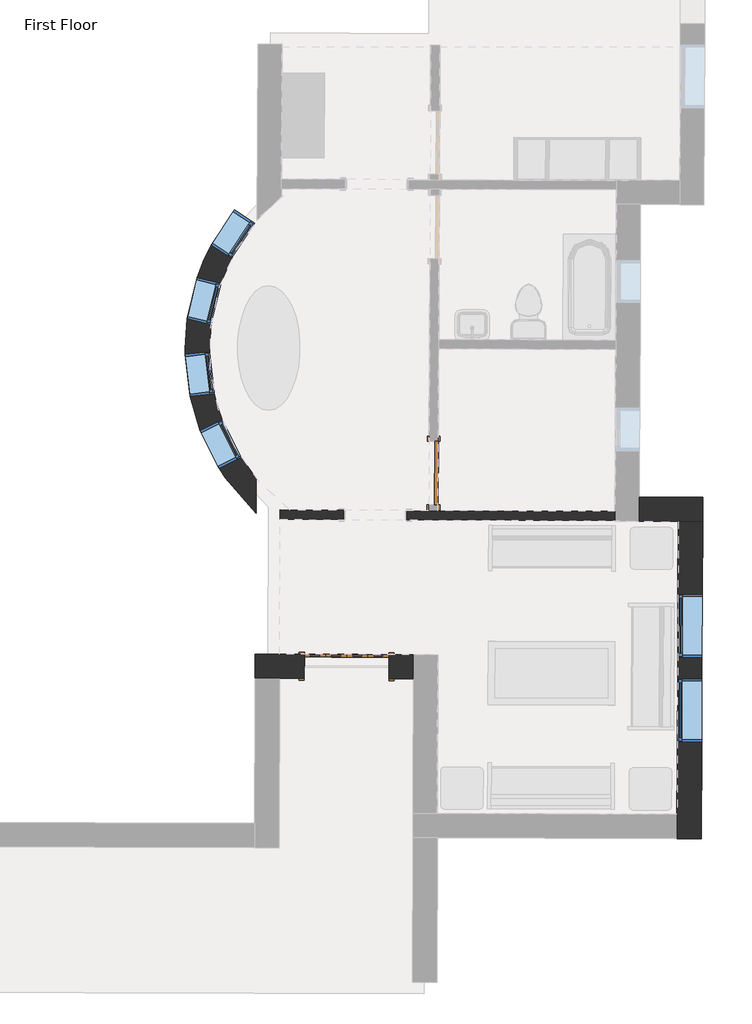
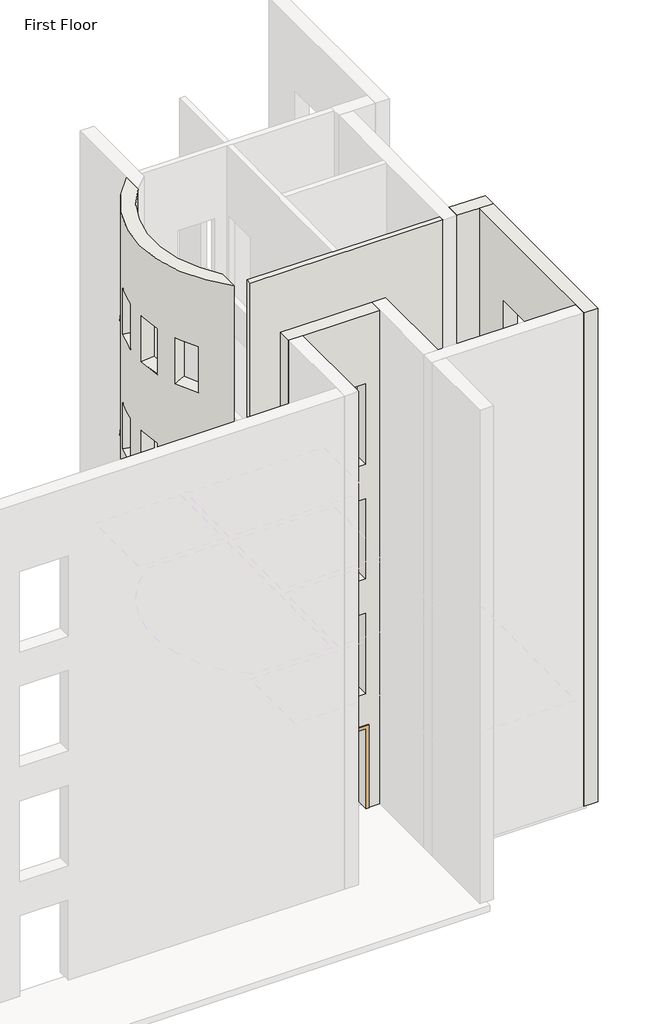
# One storey, part 8 of 22: 6 windows, 5 walls, 2 doors.
"""IFC4 building model written with IfcOpenShell, lengths in millimetres."""

from ifc_helpers import new_model, si_unit, frame, origin, place, context, project, spatial, polyline, circle_curve, faceted_brep, transform, mapped, element, save
from ifc_brep_helpers import plane_surface, cylinder_surface, revolved_surface, advanced_brep
from components import m_bifold_4_panel_1220_x_2134mm_46e1cad3, m_single_flush_0915_x_2134mm_08e0827a, m_fixed_0610_x_1220mm_2c28ef1d, m_fixed_0610_x_1220mm_1ea27827, m_fixed_0915_x_1220mm_bde29121

model = new_model("IFC4")

# Units and contexts
model_context = context("Model", 3, world=origin())
ifc_project = project(units=[si_unit("LENGTHUNIT", "METRE", prefix="MILLI")], contexts=[model_context])

# Site, building, storey
site = spatial("IfcSite", under=ifc_project)
building = spatial("IfcBuilding", under=site)
storey = spatial("IfcBuildingStorey", under=building, Name="First Floor", Elevation=0.0)

# Doors
placement = place(None, origin())
m_bifold_4_panel_1220_x_2134mm_shape = m_bifold_4_panel_1220_x_2134mm_46e1cad3(model_context)
element("IfcDoor", 1, ObjectType="M_Bifold-4 Panel : 1220 x 2134mm", at=placement, inside=storey, context=model_context, shape_type="MappedRepresentation", body=[
    mapped(m_bifold_4_panel_1220_x_2134mm_shape, transform((-9084.0085376, -31158.0124606, 0.0), x_axis=(0.9999905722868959, -0.0043422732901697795, 0.0), y_axis=(0.0043422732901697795, 0.9999905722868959, 0.0), z_axis=(0.0, 0.0, 1.0))),
])
m_single_flush_0915_x_2134mm_shape = m_single_flush_0915_x_2134mm_08e0827a(model_context)
element("IfcDoor", 2, ObjectType="M_Single-Flush : 0915 x 2134mm", at=placement, inside=storey, context=model_context, shape_type="MappedRepresentation", body=[
    mapped(m_single_flush_0915_x_2134mm_shape, transform((-7828.8792601, -28367.4362661, 0.0), x_axis=(-0.004342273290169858, -0.9999905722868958, 0.0), y_axis=(0.9999905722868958, -0.004342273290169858, 0.0), z_axis=(0.0, 0.0, 1.0))),
])

# Walls
element("IfcWall", 3, ObjectType="Exterior - Brick on Mtl. Stud", at=placement, inside=storey, context=model_context, shape_type="Brep", body=[
    faceted_brep([(-4861.2817233, -29065.3289652, 0.0), (-4296.8870443, -29067.7797442, 0.0), (-4131.8885999, -29068.4962193, 0.0), (-3946.890344, -29069.2995399, 0.0), (-3946.890344, -29069.2995399, 13107.0), (-4296.8870443, -29067.7797442, 13107.0), (-4861.2817233, -29065.3289652, 13107.0), (-4859.7619276, -28715.3322649, 0.0), (-4859.7619276, -28715.3322649, 13107.0), (-3945.3705483, -28719.3028396, 13107.0), (-3945.3705483, -28719.3028396, 0.0), (-4130.3688042, -28718.499519, 0.0), (-4860.5652482, -28900.3305208, 0.0), (-3946.1738689, -28904.3010955, 0.0), (-4131.1721248, -28903.4977749, 0.0)], [[[0, 1, 2, 3, 4, 5, 6]], [[7, 8, 9, 10, 11]], [[6, 5, 4, 9, 8]], [[0, 6, 8, 7, 12]], [[4, 3, 13, 10, 9]], [[12, 7, 11, 14]], [[3, 2, 14, 13]], [[14, 11, 10, 13]], [[2, 1, 0, 12, 14]]]),
])
element("IfcWall", 4, ObjectType="Exterior - Brick on Mtl. Stud", at=placement, inside=storey, context=model_context, shape_type="Brep", body=[
    faceted_brep([(-4296.8870443, -29067.7797442, 0.0), (-4315.2201221, -33289.7399404, 0.0), (-4315.9365972, -33454.7383849, 0.0), (-4316.7399178, -33639.7366407, 0.0), (-4316.7399178, -33639.7366407, 13107.0), (-4315.2201221, -33289.7399404, 13107.0), (-4296.8870443, -29067.7797442, 13107.0), (-4305.3931234, -31026.6612763, 915.0), (-4301.4199434, -30111.6699026, 915.0), (-4301.4199434, -30111.6699026, 2135.0), (-4305.3931234, -31026.6612763, 2135.0), (-4310.687223, -32245.849782, 915.0), (-4306.714043, -31330.8584084, 915.0), (-4306.714043, -31330.8584084, 2135.0), (-4310.687223, -32245.849782, 2135.0), (-4310.687223, -32245.849782, 10059.0), (-4306.714043, -31330.8584084, 10059.0), (-4306.714043, -31330.8584084, 11279.0), (-4310.687223, -32245.849782, 11279.0), (-4305.3931234, -31026.6612763, 10059.0), (-4301.4199434, -30111.6699026, 10059.0), (-4301.4199434, -30111.6699026, 11279.0), (-4305.3931234, -31026.6612763, 11279.0), (-4310.687223, -32245.849782, 3963.0), (-4306.714043, -31330.8584084, 3963.0), (-4306.714043, -31330.8584084, 5183.0), (-4310.687223, -32245.849782, 5183.0), (-4305.3931234, -31026.6612763, 3963.0), (-4301.4199434, -30111.6699026, 3963.0), (-4301.4199434, -30111.6699026, 5183.0), (-4305.3931234, -31026.6612763, 5183.0), (-4310.687223, -32245.849782, 7011.0), (-4306.714043, -31330.8584084, 7011.0), (-4306.714043, -31330.8584084, 8231.0), (-4310.687223, -32245.849782, 8231.0), (-4305.3931234, -31026.6612763, 7011.0), (-4301.4199434, -30111.6699026, 7011.0), (-4301.4199434, -30111.6699026, 8231.0), (-4305.3931234, -31026.6612763, 8231.0), (-3946.890344, -29069.2995399, 0.0), (-3946.890344, -29069.2995399, 13107.0), (-3966.7432175, -33641.2564364, 13107.0), (-3966.7432175, -33641.2564364, 0.0), (-3965.9398969, -33456.2581805, 0.0), (-3955.3964231, -31028.1810719, 915.0), (-3955.3964231, -31028.1810719, 2135.0), (-3951.4232431, -30113.1896983, 2135.0), (-3951.4232431, -30113.1896983, 915.0), (-3960.6905227, -32247.3695777, 915.0), (-3960.6905227, -32247.3695777, 2135.0), (-3956.7173427, -31332.378204, 2135.0), (-3956.7173427, -31332.378204, 915.0), (-3960.6905227, -32247.3695777, 10059.0), (-3960.6905227, -32247.3695777, 11279.0), (-3956.7173427, -31332.378204, 11279.0), (-3956.7173427, -31332.378204, 10059.0), (-3955.3964231, -31028.1810719, 10059.0), (-3955.3964231, -31028.1810719, 11279.0), (-3951.4232431, -30113.1896983, 11279.0), (-3951.4232431, -30113.1896983, 10059.0), (-3960.6905227, -32247.3695777, 3963.0), (-3960.6905227, -32247.3695777, 5183.0), (-3956.7173427, -31332.378204, 5183.0), (-3956.7173427, -31332.378204, 3963.0), (-3955.3964231, -31028.1810719, 3963.0), (-3955.3964231, -31028.1810719, 5183.0), (-3951.4232431, -30113.1896983, 5183.0), (-3951.4232431, -30113.1896983, 3963.0), (-3960.6905227, -32247.3695777, 7011.0), (-3960.6905227, -32247.3695777, 8231.0), (-3956.7173427, -31332.378204, 8231.0), (-3956.7173427, -31332.378204, 7011.0), (-3955.3964231, -31028.1810719, 7011.0), (-3955.3964231, -31028.1810719, 8231.0), (-3951.4232431, -30113.1896983, 8231.0), (-3951.4232431, -30113.1896983, 7011.0), (-4131.8885999, -29068.4962193, 0.0), (-4151.7414734, -33640.4531158, 0.0), (-4150.9381528, -33455.45486, 0.0)], [[[0, 1, 2, 3, 4, 5, 6], [7, 8, 9, 10], [11, 12, 13, 14], [15, 16, 17, 18], [19, 20, 21, 22], [23, 24, 25, 26], [27, 28, 29, 30], [31, 32, 33, 34], [35, 36, 37, 38]], [[39, 40, 41, 42, 43], [44, 45, 46, 47], [48, 49, 50, 51], [52, 53, 54, 55], [56, 57, 58, 59], [60, 61, 62, 63], [64, 65, 66, 67], [68, 69, 70, 71], [72, 73, 74, 75]], [[6, 5, 4, 41, 40]], [[0, 6, 40, 39, 76]], [[4, 3, 77, 42, 41]], [[45, 44, 7, 10]], [[46, 45, 10, 9]], [[47, 46, 9, 8]], [[44, 47, 8, 7]], [[49, 48, 11, 14]], [[50, 49, 14, 13]], [[51, 50, 13, 12]], [[48, 51, 12, 11]], [[76, 39, 43, 78]], [[3, 2, 78, 77]], [[78, 43, 42, 77]], [[2, 1, 0, 76, 78]], [[53, 52, 15, 18]], [[54, 53, 18, 17]], [[55, 54, 17, 16]], [[52, 55, 16, 15]], [[57, 56, 19, 22]], [[58, 57, 22, 21]], [[59, 58, 21, 20]], [[56, 59, 20, 19]], [[61, 60, 23, 26]], [[62, 61, 26, 25]], [[63, 62, 25, 24]], [[60, 63, 24, 23]], [[65, 64, 27, 30]], [[66, 65, 30, 29]], [[67, 66, 29, 28]], [[64, 67, 28, 27]], [[69, 68, 31, 34]], [[70, 69, 34, 33]], [[71, 70, 33, 32]], [[68, 71, 32, 31]], [[73, 72, 35, 38]], [[74, 73, 38, 37]], [[75, 74, 37, 36]], [[72, 75, 36, 35]]]),
])
element("IfcWall", 5, ObjectType="Exterior - Brick on Mtl. Stud", at=placement, inside=storey, context=model_context, shape_type="Brep", body=[
    faceted_brep([(-10401.236214, -30977.2909942, 13107.0), (-10051.2395137, -30978.8107899, 13107.0), (-8115.2577658, -30987.217431, 13107.0), (-8115.2577658, -30987.217431, 0.0), (-8473.2543907, -30985.6628971, 0.0), (-8473.2543907, -30985.6628971, 2134.0), (-9693.2428889, -30980.3653237, 2134.0), (-9693.2428889, -30980.3653237, 0.0), (-10051.2395137, -30978.8107899, 0.0), (-10216.2379582, -30978.0943148, 0.0), (-10401.236214, -30977.2909942, 0.0), (-8473.2543907, -30985.6628971, 9144.0), (-8473.2543907, -30985.6628971, 11278.0), (-9693.2428889, -30980.3653237, 11278.0), (-9693.2428889, -30980.3653237, 9144.0), (-8473.2543907, -30985.6628971, 3048.0), (-8473.2543907, -30985.6628971, 5182.0), (-9693.2428889, -30980.3653237, 5182.0), (-9693.2428889, -30980.3653237, 3048.0), (-8473.2543907, -30985.6628971, 6096.0), (-8473.2543907, -30985.6628971, 8230.0), (-9693.2428889, -30980.3653237, 8230.0), (-9693.2428889, -30980.3653237, 6096.0), (-8116.7775614, -31337.2141313, 13107.0), (-10052.7613374, -31328.8074814, 13107.0), (-10402.7560097, -31327.2876945, 13107.0), (-10402.7560097, -31327.2876945, 0.0), (-10217.7577538, -31328.0910151, 0.0), (-10052.7613374, -31328.8074814, 0.0), (-9694.7626845, -31330.362024, 0.0), (-9694.7626845, -31330.362024, 2134.0), (-8474.7741863, -31335.6595974, 2134.0), (-8474.7741863, -31335.6595974, 0.0), (-8116.7775614, -31337.2141313, 0.0), (-8474.7741863, -31335.6595974, 9144.0), (-9694.7626845, -31330.362024, 9144.0), (-9694.7626845, -31330.362024, 11278.0), (-8474.7741863, -31335.6595974, 11278.0), (-8474.7741863, -31335.6595974, 3048.0), (-9694.7626845, -31330.362024, 3048.0), (-9694.7626845, -31330.362024, 5182.0), (-8474.7741863, -31335.6595974, 5182.0), (-8474.7741863, -31335.6595974, 6096.0), (-9694.7626845, -31330.362024, 6096.0), (-9694.7626845, -31330.362024, 8230.0), (-8474.7741863, -31335.6595974, 8230.0), (-8473.9708658, -31150.6613415, 0.0), (-9693.959364, -31145.3637681, 0.0), (-10216.9544333, -31143.0927592, 0.0), (-8115.9742409, -31152.2158754, 0.0), (-10401.9526891, -31142.2894386, 0.0)], [[[0, 1, 2, 3, 4, 5, 6, 7, 8, 9, 10], [11, 12, 13, 14], [15, 16, 17, 18], [19, 20, 21, 22]], [[23, 24, 25, 26, 27, 28, 29, 30, 31, 32, 33], [34, 35, 36, 37], [38, 39, 40, 41], [42, 43, 44, 45]], [[2, 1, 0, 25, 24, 23]], [[31, 5, 4, 46, 32]], [[5, 31, 30, 6]], [[6, 30, 29, 47, 7]], [[27, 48, 47, 29, 28]], [[49, 33, 32, 46]], [[10, 9, 48, 50]], [[27, 26, 50, 48]], [[48, 9, 8, 7, 47]], [[3, 49, 46, 4]], [[12, 11, 34, 37]], [[13, 12, 37, 36]], [[14, 13, 36, 35]], [[11, 14, 35, 34]], [[16, 15, 38, 41]], [[17, 16, 41, 40]], [[18, 17, 40, 39]], [[15, 18, 39, 38]], [[20, 19, 42, 45]], [[21, 20, 45, 44]], [[22, 21, 44, 43]], [[19, 22, 43, 42]], [[3, 2, 23, 33, 49]], [[0, 10, 50, 26, 25]]]),
])
element("IfcWall", 6, ObjectType="Exterior - Brick on Mtl. Stud", at=placement, inside=storey, context=model_context, shape_type="AdvancedBrep", body=[
    advanced_brep(
    [(-10390.2125961, -28438.6405522, 13107.0), (-10374.0738807, -24722.0243435, 13107.0), (-10371.8795021, -24216.6766394, 13107.0), (-10392.4069746, -28943.9882564, 13107.0), (-10374.0738807, -24722.0243435, 0.0), (-10390.2125961, -28438.6405522, 0.0), (-10392.4069746, -28943.9882564, 0.0), (-10371.8795021, -24216.6766394, 0.0), (-10408.8328393, -24763.4304099, 2135.0), (-10408.8328393, -24763.4304099, 915.0), (-10744.4408992, -25272.8096695, 915.0), (-10744.4408992, -25272.8096695, 2135.0), (-10899.7584089, -25632.0856121, 2135.0), (-10899.7584089, -25632.0856121, 915.0), (-11040.9088589, -26225.5302603, 915.0), (-11040.9088589, -26225.5302603, 2135.0), (-10993.64798, -27222.1927833, 915.0), (-10993.64798, -27222.1927833, 2135.0), (-11063.9799673, -26616.2609294, 2135.0), (-11063.9799673, -26616.2609294, 915.0), (-10608.3586219, -28142.5850289, 915.0), (-10608.3586219, -28142.5850289, 2135.0), (-10881.6899709, -27597.2502935, 2135.0), (-10881.6899709, -27597.2502935, 915.0), (-10993.64798, -27222.1927833, 10059.0), (-10993.64798, -27222.1927833, 11279.0), (-11063.9799673, -26616.2609294, 11279.0), (-11063.9799673, -26616.2609294, 10059.0), (-10608.3586219, -28142.5850289, 10059.0), (-10608.3586219, -28142.5850289, 11279.0), (-10881.6899709, -27597.2502935, 11279.0), (-10881.6899709, -27597.2502935, 10059.0), (-10899.7584089, -25632.0856121, 10059.0), (-11040.9088589, -26225.5302603, 10059.0), (-11040.9088589, -26225.5302603, 11279.0), (-10899.7584089, -25632.0856121, 11279.0), (-10408.8328393, -24763.4304099, 10059.0), (-10744.4408992, -25272.8096695, 10059.0), (-10744.4408992, -25272.8096695, 11279.0), (-10408.8328393, -24763.4304099, 11279.0), (-10993.64798, -27222.1927833, 3963.0), (-10993.64798, -27222.1927833, 5183.0), (-11063.9799673, -26616.2609294, 5183.0), (-11063.9799673, -26616.2609294, 3963.0), (-10608.3586219, -28142.5850289, 3963.0), (-10608.3586219, -28142.5850289, 5183.0), (-10881.6899709, -27597.2502935, 5183.0), (-10881.6899709, -27597.2502935, 3963.0), (-10899.7584089, -25632.0856121, 3963.0), (-11040.9088589, -26225.5302603, 3963.0), (-11040.9088589, -26225.5302603, 5183.0), (-10899.7584089, -25632.0856121, 5183.0), (-10408.8328393, -24763.4304099, 3963.0), (-10744.4408992, -25272.8096695, 3963.0), (-10744.4408992, -25272.8096695, 5183.0), (-10408.8328393, -24763.4304099, 5183.0), (-10993.64798, -27222.1927833, 7011.0), (-10993.64798, -27222.1927833, 8231.0), (-11063.9799673, -26616.2609294, 8231.0), (-11063.9799673, -26616.2609294, 7011.0), (-10608.3586219, -28142.5850289, 7011.0), (-10608.3586219, -28142.5850289, 8231.0), (-10881.6899709, -27597.2502935, 8231.0), (-10881.6899709, -27597.2502935, 7011.0), (-10899.7584089, -25632.0856121, 7011.0), (-11040.9088589, -26225.5302603, 7011.0), (-11040.9088589, -26225.5302603, 8231.0), (-10899.7584089, -25632.0856121, 8231.0), (-10408.8328393, -24763.4304099, 7011.0), (-10744.4408992, -25272.8096695, 7011.0), (-10744.4408992, -25272.8096695, 8231.0), (-10408.8328393, -24763.4304099, 8231.0), (-10702.5789245, -24569.8937633, 915.0), (-10702.5789245, -24569.8937633, 2135.0), (-11038.1869844, -25079.2730229, 2135.0), (-11038.1869844, -25079.2730229, 915.0), (-11241.9828692, -25550.6877316, 915.0), (-11241.9828692, -25550.6877316, 2135.0), (-11383.1333192, -26144.1323798, 2135.0), (-11383.1333192, -26144.1323798, 915.0), (-11343.0734947, -27262.7514546, 915.0), (-11413.405482, -26656.8196007, 915.0), (-11413.405482, -26656.8196007, 2135.0), (-11343.0734947, -27262.7514546, 2135.0), (-10922.839317, -28300.2082777, 915.0), (-11196.170666, -27754.8735423, 915.0), (-11196.170666, -27754.8735423, 2135.0), (-10922.839317, -28300.2082777, 2135.0), (-11343.0734947, -27262.7514546, 10059.0), (-11413.405482, -26656.8196007, 10059.0), (-11413.405482, -26656.8196007, 11279.0), (-11343.0734947, -27262.7514546, 11279.0), (-10922.839317, -28300.2082777, 10059.0), (-11196.170666, -27754.8735423, 10059.0), (-11196.170666, -27754.8735423, 11279.0), (-10922.839317, -28300.2082777, 11279.0), (-11241.9828692, -25550.6877316, 10059.0), (-11241.9828692, -25550.6877316, 11279.0), (-11383.1333192, -26144.1323798, 11279.0), (-11383.1333192, -26144.1323798, 10059.0), (-10702.5789245, -24569.8937633, 10059.0), (-10702.5789245, -24569.8937633, 11279.0), (-11038.1869844, -25079.2730229, 11279.0), (-11038.1869844, -25079.2730229, 10059.0), (-11343.0734947, -27262.7514546, 3963.0), (-11413.405482, -26656.8196007, 3963.0), (-11413.405482, -26656.8196007, 5183.0), (-11343.0734947, -27262.7514546, 5183.0), (-10922.839317, -28300.2082777, 3963.0), (-11196.170666, -27754.8735423, 3963.0), (-11196.170666, -27754.8735423, 5183.0), (-10922.839317, -28300.2082777, 5183.0), (-11241.9828692, -25550.6877316, 3963.0), (-11241.9828692, -25550.6877316, 5183.0), (-11383.1333192, -26144.1323798, 5183.0), (-11383.1333192, -26144.1323798, 3963.0), (-10702.5789245, -24569.8937633, 3963.0), (-10702.5789245, -24569.8937633, 5183.0), (-11038.1869844, -25079.2730229, 5183.0), (-11038.1869844, -25079.2730229, 3963.0), (-11343.0734947, -27262.7514546, 7011.0), (-11413.405482, -26656.8196007, 7011.0), (-11413.405482, -26656.8196007, 8231.0), (-11343.0734947, -27262.7514546, 8231.0), (-10922.839317, -28300.2082777, 7011.0), (-11196.170666, -27754.8735423, 7011.0), (-11196.170666, -27754.8735423, 8231.0), (-10922.839317, -28300.2082777, 8231.0), (-11241.9828692, -25550.6877316, 7011.0), (-11241.9828692, -25550.6877316, 8231.0), (-11383.1333192, -26144.1323798, 8231.0), (-11383.1333192, -26144.1323798, 7011.0), (-10702.5789245, -24569.8937633, 7011.0), (-10702.5789245, -24569.8937633, 8231.0), (-11038.1869844, -25079.2730229, 8231.0), (-11038.1869844, -25079.2730229, 7011.0)],
    [
        (0, 1, circle_curve(frame((-8191.1013961, -26589.84664, 13107.0), z_axis=(0.0, 0.0, -1.0), x_axis=(-0.0043422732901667, -0.9999905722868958, 0.0)), 2873.0)),
        (1, 2),
        (2, 3, circle_curve(frame((-8191.1013961, -26589.84664, 13107.0), z_axis=(0.0, 0.0, 1.0), x_axis=(-0.0043422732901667, -0.9999905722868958, 0.0)), 3223.0)),
        (3, 0),
        (4, 5, circle_curve(frame((-8191.1013961, -26589.84664, 0.0), z_axis=(0.0, 0.0, 1.0), x_axis=(-0.0043422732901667, -0.9999905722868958, 0.0)), 2873.0)),
        (5, 6),
        (6, 7, circle_curve(frame((-8191.1013961, -26589.84664, 0.0), z_axis=(0.0, 0.0, -1.0), x_axis=(-0.0043422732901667, -0.9999905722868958, 0.0)), 3223.0)),
        (7, 4),
        (0, 5),
        (4, 1),
        (8, 9),
        (9, 10, circle_curve(frame((-8191.1013961, -26589.84664, 915.0), z_axis=(0.0, 0.0, 1.0), x_axis=(-0.0043422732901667, -0.9999905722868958, 0.0)), 2873.0)),
        (10, 11),
        (11, 8, circle_curve(frame((-8191.1013961, -26589.84664, 2135.0), z_axis=(0.0, 0.0, -1.0), x_axis=(-0.0043422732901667, -0.9999905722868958, 0.0)), 2873.0)),
        (12, 13),
        (13, 14, circle_curve(frame((-8191.1013961, -26589.84664, 915.0), z_axis=(0.0, 0.0, 1.0), x_axis=(-0.0043422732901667, -0.9999905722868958, 0.0)), 2873.0)),
        (14, 15),
        (15, 12, circle_curve(frame((-8191.1013961, -26589.84664, 2135.0), z_axis=(0.0, 0.0, -1.0), x_axis=(-0.0043422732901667, -0.9999905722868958, 0.0)), 2873.0)),
        (16, 17),
        (17, 18, circle_curve(frame((-8191.1013961, -26589.84664, 2135.0), z_axis=(0.0, 0.0, -1.0), x_axis=(-0.0043422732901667, -0.9999905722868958, 0.0)), 2873.0)),
        (18, 19),
        (19, 16, circle_curve(frame((-8191.1013961, -26589.84664, 915.0), z_axis=(0.0, 0.0, 1.0), x_axis=(-0.0043422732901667, -0.9999905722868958, 0.0)), 2873.0)),
        (20, 21),
        (21, 22, circle_curve(frame((-8191.1013961, -26589.84664, 2135.0), z_axis=(0.0, 0.0, -1.0), x_axis=(-0.0043422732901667, -0.9999905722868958, 0.0)), 2873.0)),
        (22, 23),
        (23, 20, circle_curve(frame((-8191.1013961, -26589.84664, 915.0), z_axis=(0.0, 0.0, 1.0), x_axis=(-0.0043422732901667, -0.9999905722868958, 0.0)), 2873.0)),
        (24, 25),
        (25, 26, circle_curve(frame((-8191.1013961, -26589.84664, 11279.0), z_axis=(0.0, 0.0, -1.0), x_axis=(-0.0043422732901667, -0.9999905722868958, 0.0)), 2873.0)),
        (26, 27),
        (27, 24, circle_curve(frame((-8191.1013961, -26589.84664, 10059.0), z_axis=(0.0, 0.0, 1.0), x_axis=(-0.0043422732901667, -0.9999905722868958, 0.0)), 2873.0)),
        (28, 29),
        (29, 30, circle_curve(frame((-8191.1013961, -26589.84664, 11279.0), z_axis=(0.0, 0.0, -1.0), x_axis=(-0.0043422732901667, -0.9999905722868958, 0.0)), 2873.0)),
        (30, 31),
        (31, 28, circle_curve(frame((-8191.1013961, -26589.84664, 10059.0), z_axis=(0.0, 0.0, 1.0), x_axis=(-0.0043422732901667, -0.9999905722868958, 0.0)), 2873.0)),
        (32, 33, circle_curve(frame((-8191.1013961, -26589.84664, 10059.0), z_axis=(0.0, 0.0, 1.0), x_axis=(-0.0043422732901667, -0.9999905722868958, 0.0)), 2873.0)),
        (33, 34),
        (34, 35, circle_curve(frame((-8191.1013961, -26589.84664, 11279.0), z_axis=(0.0, 0.0, -1.0), x_axis=(-0.0043422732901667, -0.9999905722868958, 0.0)), 2873.0)),
        (35, 32),
        (36, 37, circle_curve(frame((-8191.1013961, -26589.84664, 10059.0), z_axis=(0.0, 0.0, 1.0), x_axis=(-0.0043422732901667, -0.9999905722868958, 0.0)), 2873.0)),
        (37, 38),
        (38, 39, circle_curve(frame((-8191.1013961, -26589.84664, 11279.0), z_axis=(0.0, 0.0, -1.0), x_axis=(-0.0043422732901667, -0.9999905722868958, 0.0)), 2873.0)),
        (39, 36),
        (40, 41),
        (41, 42, circle_curve(frame((-8191.1013961, -26589.84664, 5183.0), z_axis=(0.0, 0.0, -1.0), x_axis=(-0.0043422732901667, -0.9999905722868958, 0.0)), 2873.0)),
        (42, 43),
        (43, 40, circle_curve(frame((-8191.1013961, -26589.84664, 3963.0), z_axis=(0.0, 0.0, 1.0), x_axis=(-0.0043422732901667, -0.9999905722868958, 0.0)), 2873.0)),
        (44, 45),
        (45, 46, circle_curve(frame((-8191.1013961, -26589.84664, 5183.0), z_axis=(0.0, 0.0, -1.0), x_axis=(-0.0043422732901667, -0.9999905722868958, 0.0)), 2873.0)),
        (46, 47),
        (47, 44, circle_curve(frame((-8191.1013961, -26589.84664, 3963.0), z_axis=(0.0, 0.0, 1.0), x_axis=(-0.0043422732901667, -0.9999905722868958, 0.0)), 2873.0)),
        (48, 49, circle_curve(frame((-8191.1013961, -26589.84664, 3963.0), z_axis=(0.0, 0.0, 1.0), x_axis=(-0.0043422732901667, -0.9999905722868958, 0.0)), 2873.0)),
        (49, 50),
        (50, 51, circle_curve(frame((-8191.1013961, -26589.84664, 5183.0), z_axis=(0.0, 0.0, -1.0), x_axis=(-0.0043422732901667, -0.9999905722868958, 0.0)), 2873.0)),
        (51, 48),
        (52, 53, circle_curve(frame((-8191.1013961, -26589.84664, 3963.0), z_axis=(0.0, 0.0, 1.0), x_axis=(-0.0043422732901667, -0.9999905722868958, 0.0)), 2873.0)),
        (53, 54),
        (54, 55, circle_curve(frame((-8191.1013961, -26589.84664, 5183.0), z_axis=(0.0, 0.0, -1.0), x_axis=(-0.0043422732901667, -0.9999905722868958, 0.0)), 2873.0)),
        (55, 52),
        (56, 57),
        (57, 58, circle_curve(frame((-8191.1013961, -26589.84664, 8231.0), z_axis=(0.0, 0.0, -1.0), x_axis=(-0.0043422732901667, -0.9999905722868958, 0.0)), 2873.0)),
        (58, 59),
        (59, 56, circle_curve(frame((-8191.1013961, -26589.84664, 7011.0), z_axis=(0.0, 0.0, 1.0), x_axis=(-0.0043422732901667, -0.9999905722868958, 0.0)), 2873.0)),
        (60, 61),
        (61, 62, circle_curve(frame((-8191.1013961, -26589.84664, 8231.0), z_axis=(0.0, 0.0, -1.0), x_axis=(-0.0043422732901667, -0.9999905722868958, 0.0)), 2873.0)),
        (62, 63),
        (63, 60, circle_curve(frame((-8191.1013961, -26589.84664, 7011.0), z_axis=(0.0, 0.0, 1.0), x_axis=(-0.0043422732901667, -0.9999905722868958, 0.0)), 2873.0)),
        (64, 65, circle_curve(frame((-8191.1013961, -26589.84664, 7011.0), z_axis=(0.0, 0.0, 1.0), x_axis=(-0.0043422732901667, -0.9999905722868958, 0.0)), 2873.0)),
        (65, 66),
        (66, 67, circle_curve(frame((-8191.1013961, -26589.84664, 8231.0), z_axis=(0.0, 0.0, -1.0), x_axis=(-0.0043422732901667, -0.9999905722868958, 0.0)), 2873.0)),
        (67, 64),
        (68, 69, circle_curve(frame((-8191.1013961, -26589.84664, 7011.0), z_axis=(0.0, 0.0, 1.0), x_axis=(-0.0043422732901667, -0.9999905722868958, 0.0)), 2873.0)),
        (69, 70),
        (70, 71, circle_curve(frame((-8191.1013961, -26589.84664, 8231.0), z_axis=(0.0, 0.0, -1.0), x_axis=(-0.0043422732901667, -0.9999905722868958, 0.0)), 2873.0)),
        (71, 68),
        (2, 7),
        (6, 3),
        (72, 73),
        (73, 74, circle_curve(frame((-8191.1013961, -26589.84664, 2135.0), z_axis=(0.0, 0.0, 1.0), x_axis=(-0.0043422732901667, -0.9999905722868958, 0.0)), 3223.0)),
        (74, 75),
        (75, 72, circle_curve(frame((-8191.1013961, -26589.84664, 915.0), z_axis=(0.0, 0.0, -1.0), x_axis=(-0.0043422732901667, -0.9999905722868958, 0.0)), 3223.0)),
        (76, 77),
        (77, 78, circle_curve(frame((-8191.1013961, -26589.84664, 2135.0), z_axis=(0.0, 0.0, 1.0), x_axis=(-0.0043422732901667, -0.9999905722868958, 0.0)), 3223.0)),
        (78, 79),
        (79, 76, circle_curve(frame((-8191.1013961, -26589.84664, 915.0), z_axis=(0.0, 0.0, -1.0), x_axis=(-0.0043422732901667, -0.9999905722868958, 0.0)), 3223.0)),
        (80, 81, circle_curve(frame((-8191.1013961, -26589.84664, 915.0), z_axis=(0.0, 0.0, -1.0), x_axis=(-0.0043422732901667, -0.9999905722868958, 0.0)), 3223.0)),
        (81, 82),
        (82, 83, circle_curve(frame((-8191.1013961, -26589.84664, 2135.0), z_axis=(0.0, 0.0, 1.0), x_axis=(-0.0043422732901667, -0.9999905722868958, 0.0)), 3223.0)),
        (83, 80),
        (84, 85, circle_curve(frame((-8191.1013961, -26589.84664, 915.0), z_axis=(0.0, 0.0, -1.0), x_axis=(-0.0043422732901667, -0.9999905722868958, 0.0)), 3223.0)),
        (85, 86),
        (86, 87, circle_curve(frame((-8191.1013961, -26589.84664, 2135.0), z_axis=(0.0, 0.0, 1.0), x_axis=(-0.0043422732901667, -0.9999905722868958, 0.0)), 3223.0)),
        (87, 84),
        (88, 89, circle_curve(frame((-8191.1013961, -26589.84664, 10059.0), z_axis=(0.0, 0.0, -1.0), x_axis=(-0.0043422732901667, -0.9999905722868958, 0.0)), 3223.0)),
        (89, 90),
        (90, 91, circle_curve(frame((-8191.1013961, -26589.84664, 11279.0), z_axis=(0.0, 0.0, 1.0), x_axis=(-0.0043422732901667, -0.9999905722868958, 0.0)), 3223.0)),
        (91, 88),
        (92, 93, circle_curve(frame((-8191.1013961, -26589.84664, 10059.0), z_axis=(0.0, 0.0, -1.0), x_axis=(-0.0043422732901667, -0.9999905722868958, 0.0)), 3223.0)),
        (93, 94),
        (94, 95, circle_curve(frame((-8191.1013961, -26589.84664, 11279.0), z_axis=(0.0, 0.0, 1.0), x_axis=(-0.0043422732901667, -0.9999905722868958, 0.0)), 3223.0)),
        (95, 92),
        (96, 97),
        (97, 98, circle_curve(frame((-8191.1013961, -26589.84664, 11279.0), z_axis=(0.0, 0.0, 1.0), x_axis=(-0.0043422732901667, -0.9999905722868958, 0.0)), 3223.0)),
        (98, 99),
        (99, 96, circle_curve(frame((-8191.1013961, -26589.84664, 10059.0), z_axis=(0.0, 0.0, -1.0), x_axis=(-0.0043422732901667, -0.9999905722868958, 0.0)), 3223.0)),
        (100, 101),
        (101, 102, circle_curve(frame((-8191.1013961, -26589.84664, 11279.0), z_axis=(0.0, 0.0, 1.0), x_axis=(-0.0043422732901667, -0.9999905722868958, 0.0)), 3223.0)),
        (102, 103),
        (103, 100, circle_curve(frame((-8191.1013961, -26589.84664, 10059.0), z_axis=(0.0, 0.0, -1.0), x_axis=(-0.0043422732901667, -0.9999905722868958, 0.0)), 3223.0)),
        (104, 105, circle_curve(frame((-8191.1013961, -26589.84664, 3963.0), z_axis=(0.0, 0.0, -1.0), x_axis=(-0.0043422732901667, -0.9999905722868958, 0.0)), 3223.0)),
        (105, 106),
        (106, 107, circle_curve(frame((-8191.1013961, -26589.84664, 5183.0), z_axis=(0.0, 0.0, 1.0), x_axis=(-0.0043422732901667, -0.9999905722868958, 0.0)), 3223.0)),
        (107, 104),
        (108, 109, circle_curve(frame((-8191.1013961, -26589.84664, 3963.0), z_axis=(0.0, 0.0, -1.0), x_axis=(-0.0043422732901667, -0.9999905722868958, 0.0)), 3223.0)),
        (109, 110),
        (110, 111, circle_curve(frame((-8191.1013961, -26589.84664, 5183.0), z_axis=(0.0, 0.0, 1.0), x_axis=(-0.0043422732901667, -0.9999905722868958, 0.0)), 3223.0)),
        (111, 108),
        (112, 113),
        (113, 114, circle_curve(frame((-8191.1013961, -26589.84664, 5183.0), z_axis=(0.0, 0.0, 1.0), x_axis=(-0.0043422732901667, -0.9999905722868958, 0.0)), 3223.0)),
        (114, 115),
        (115, 112, circle_curve(frame((-8191.1013961, -26589.84664, 3963.0), z_axis=(0.0, 0.0, -1.0), x_axis=(-0.0043422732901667, -0.9999905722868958, 0.0)), 3223.0)),
        (116, 117),
        (117, 118, circle_curve(frame((-8191.1013961, -26589.84664, 5183.0), z_axis=(0.0, 0.0, 1.0), x_axis=(-0.0043422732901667, -0.9999905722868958, 0.0)), 3223.0)),
        (118, 119),
        (119, 116, circle_curve(frame((-8191.1013961, -26589.84664, 3963.0), z_axis=(0.0, 0.0, -1.0), x_axis=(-0.0043422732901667, -0.9999905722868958, 0.0)), 3223.0)),
        (120, 121, circle_curve(frame((-8191.1013961, -26589.84664, 7011.0), z_axis=(0.0, 0.0, -1.0), x_axis=(-0.0043422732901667, -0.9999905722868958, 0.0)), 3223.0)),
        (121, 122),
        (122, 123, circle_curve(frame((-8191.1013961, -26589.84664, 8231.0), z_axis=(0.0, 0.0, 1.0), x_axis=(-0.0043422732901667, -0.9999905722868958, 0.0)), 3223.0)),
        (123, 120),
        (124, 125, circle_curve(frame((-8191.1013961, -26589.84664, 7011.0), z_axis=(0.0, 0.0, -1.0), x_axis=(-0.0043422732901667, -0.9999905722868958, 0.0)), 3223.0)),
        (125, 126),
        (126, 127, circle_curve(frame((-8191.1013961, -26589.84664, 8231.0), z_axis=(0.0, 0.0, 1.0), x_axis=(-0.0043422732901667, -0.9999905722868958, 0.0)), 3223.0)),
        (127, 124),
        (128, 129),
        (129, 130, circle_curve(frame((-8191.1013961, -26589.84664, 8231.0), z_axis=(0.0, 0.0, 1.0), x_axis=(-0.0043422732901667, -0.9999905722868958, 0.0)), 3223.0)),
        (130, 131),
        (131, 128, circle_curve(frame((-8191.1013961, -26589.84664, 7011.0), z_axis=(0.0, 0.0, -1.0), x_axis=(-0.0043422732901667, -0.9999905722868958, 0.0)), 3223.0)),
        (132, 133),
        (133, 134, circle_curve(frame((-8191.1013961, -26589.84664, 8231.0), z_axis=(0.0, 0.0, 1.0), x_axis=(-0.0043422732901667, -0.9999905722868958, 0.0)), 3223.0)),
        (134, 135),
        (135, 132, circle_curve(frame((-8191.1013961, -26589.84664, 7011.0), z_axis=(0.0, 0.0, -1.0), x_axis=(-0.0043422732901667, -0.9999905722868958, 0.0)), 3223.0)),
        (72, 9),
        (8, 73),
        (11, 74),
        (10, 75),
        (76, 13),
        (12, 77),
        (15, 78),
        (14, 79),
        (16, 80),
        (83, 17),
        (82, 18),
        (81, 19),
        (20, 84),
        (87, 21),
        (86, 22),
        (85, 23),
        (24, 88),
        (91, 25),
        (90, 26),
        (89, 27),
        (28, 92),
        (95, 29),
        (94, 30),
        (93, 31),
        (96, 32),
        (35, 97),
        (34, 98),
        (33, 99),
        (100, 36),
        (39, 101),
        (38, 102),
        (37, 103),
        (40, 104),
        (107, 41),
        (106, 42),
        (105, 43),
        (44, 108),
        (111, 45),
        (110, 46),
        (109, 47),
        (112, 48),
        (51, 113),
        (50, 114),
        (49, 115),
        (116, 52),
        (55, 117),
        (54, 118),
        (53, 119),
        (56, 120),
        (123, 57),
        (122, 58),
        (121, 59),
        (60, 124),
        (127, 61),
        (126, 62),
        (125, 63),
        (128, 64),
        (67, 129),
        (66, 130),
        (65, 131),
        (132, 68),
        (71, 133),
        (70, 134),
        (69, 135),
    ],
    [
        plane_surface(frame((-8203.5767472, -29462.8195542, 13107.0), z_axis=(0.0, 0.0, 1.0000000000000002), x_axis=(-0.9999905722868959, 0.004342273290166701, 0.0))),
        plane_surface(frame((-8203.5767472, -29462.8195542, 0.0), z_axis=(0.0, 0.0, -1.0000000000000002), x_axis=(0.9999905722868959, -0.004342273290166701, 0.0))),
        revolved_surface(polyline([(-8203.576747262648, -29462.819554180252, 0.0), (-8203.576747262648, -29462.819554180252, 13107.0)]), (-8191.1013961, -26589.84664, 0.0), (0.0, 0.0, -1.0)),
        cylinder_surface(frame((-8191.1013961, -26589.84664, 0.0), z_axis=(0.0, 0.0, 1.0), x_axis=(-0.0043422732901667, -0.9999905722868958, 0.0)), 3223.0),
        plane_surface(frame((-10401.9961119, -31152.2893444, 0.0), z_axis=(0.9999905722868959, -0.004342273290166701, 0.0), x_axis=(-0.004342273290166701, -0.9999905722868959, 0.0))),
        plane_surface(frame((-10362.2903649, -22008.3755514, 0.0), z_axis=(0.9999905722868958, -0.0043422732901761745, 0.0), x_axis=(-0.0043422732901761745, -0.9999905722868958, 0.0))),
        plane_surface(frame((-10702.5789245, -24569.8937633, 915.0), z_axis=(-0.5501771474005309, -0.8350479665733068, 0.0), x_axis=(0.8350479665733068, -0.5501771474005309, 0.0))),
        plane_surface(frame((-10702.5789245, -24569.8937633, 2135.0), z_axis=(0.0, 0.0, -1.0000000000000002), x_axis=(0.8350479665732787, -0.5501771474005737, 0.0))),
        plane_surface(frame((-11038.1869844, -25079.2730229, 2135.0), z_axis=(0.5501771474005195, 0.8350479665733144, 0.0), x_axis=(0.8350479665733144, -0.5501771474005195, 0.0))),
        plane_surface(frame((-11038.1869844, -25079.2730229, 915.0), z_axis=(0.0, 0.0, 1.0), x_axis=(0.8350479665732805, -0.5501771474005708, 0.0))),
        plane_surface(frame((-9757.6206762, -25903.7423798, 915.0), z_axis=(-0.23139418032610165, -0.9728600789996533, 0.0), x_axis=(-0.9728600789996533, 0.23139418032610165, 0.0))),
        plane_surface(frame((-9757.6206762, -25903.7423798, 2135.0), z_axis=(0.0, 0.0, -1.0000000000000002), x_axis=(-0.9728600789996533, 0.23139418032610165, 0.0))),
        plane_surface(frame((-9898.7711262, -26497.187028, 2135.0), z_axis=(0.23139418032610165, 0.9728600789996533, 0.0), x_axis=(-0.9728600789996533, 0.23139418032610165, 0.0))),
        plane_surface(frame((-9898.7711262, -26497.187028, 915.0), z_axis=(0.0, 0.0, 1.0000000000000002), x_axis=(-0.9728600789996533, 0.23139418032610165, 0.0))),
        plane_surface(frame((-10993.64798, -27222.1927833, 915.0), z_axis=(-0.1152983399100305, 0.9933309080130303, 0.0), x_axis=(-0.9933309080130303, -0.1152983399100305, 0.0))),
        plane_surface(frame((-10993.64798, -27222.1927833, 2135.0), z_axis=(0.0, 0.0, -1.0), x_axis=(-0.993330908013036, -0.1152983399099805, 0.0))),
        plane_surface(frame((-11063.9799673, -26616.2609294, 2135.0), z_axis=(0.11529833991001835, -0.9933309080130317, 0.0), x_axis=(-0.9933309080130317, -0.11529833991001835, 0.0))),
        plane_surface(frame((-11063.9799673, -26616.2609294, 915.0), z_axis=(0.0, 0.0, 1.0000000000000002), x_axis=(-0.9933309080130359, -0.1152983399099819, 0.0))),
        plane_surface(frame((-10608.3586219, -28142.5850289, 915.0), z_axis=(-0.4480841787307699, 0.8939913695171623, 0.0), x_axis=(-0.8939913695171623, -0.4480841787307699, 0.0))),
        plane_surface(frame((-10608.3586219, -28142.5850289, 2135.0), z_axis=(0.0, 0.0, -1.0), x_axis=(-0.8939913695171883, -0.4480841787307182, 0.0))),
        plane_surface(frame((-10881.6899709, -27597.2502935, 2135.0), z_axis=(0.4480841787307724, -0.8939913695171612, 0.0), x_axis=(-0.8939913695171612, -0.4480841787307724, 0.0))),
        plane_surface(frame((-10881.6899709, -27597.2502935, 915.0), z_axis=(0.0, 0.0, 1.0000000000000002), x_axis=(-0.8939913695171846, -0.44808417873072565, 0.0))),
        plane_surface(frame((-10993.64798, -27222.1927833, 10059.0), z_axis=(-0.1152983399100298, 0.9933309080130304, 0.0), x_axis=(-0.9933309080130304, -0.1152983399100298, 0.0))),
        plane_surface(frame((-10993.64798, -27222.1927833, 11279.0), z_axis=(0.0, 0.0, -1.0), x_axis=(-0.993330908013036, -0.1152983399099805, 0.0))),
        plane_surface(frame((-11063.9799673, -26616.2609294, 11279.0), z_axis=(0.1152983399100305, -0.9933309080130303, 0.0), x_axis=(-0.9933309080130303, -0.1152983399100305, 0.0))),
        plane_surface(frame((-11063.9799673, -26616.2609294, 10059.0), z_axis=(0.0, 0.0, 1.0), x_axis=(-0.9933309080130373, -0.11529833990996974, 0.0))),
        plane_surface(frame((-10608.3586219, -28142.5850289, 10059.0), z_axis=(-0.4480841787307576, 0.8939913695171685, 0.0), x_axis=(-0.8939913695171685, -0.4480841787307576, 0.0))),
        plane_surface(frame((-10608.3586219, -28142.5850289, 11279.0), z_axis=(0.0, 0.0, -1.0000000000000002), x_axis=(-0.8939913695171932, -0.4480841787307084, 0.0))),
        plane_surface(frame((-10881.6899709, -27597.2502935, 11279.0), z_axis=(0.44808417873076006, -0.8939913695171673, 0.0), x_axis=(-0.8939913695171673, -0.44808417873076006, 0.0))),
        plane_surface(frame((-10881.6899709, -27597.2502935, 10059.0), z_axis=(0.0, 0.0, 1.0), x_axis=(-0.8939913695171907, -0.4480841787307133, 0.0))),
        plane_surface(frame((-11241.9828692, -25550.6877316, 10059.0), z_axis=(-0.23139418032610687, -0.972860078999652, 0.0), x_axis=(0.972860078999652, -0.23139418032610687, 0.0))),
        plane_surface(frame((-11241.9828692, -25550.6877316, 11279.0), z_axis=(0.0, 0.0, -1.0000000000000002), x_axis=(0.9728600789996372, -0.23139418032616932, 0.0))),
        plane_surface(frame((-11383.1333192, -26144.1323798, 11279.0), z_axis=(0.23139418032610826, 0.9728600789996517, 0.0), x_axis=(0.9728600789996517, -0.23139418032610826, 0.0))),
        plane_surface(frame((-11383.1333192, -26144.1323798, 10059.0), z_axis=(0.0, 0.0, 1.0), x_axis=(0.9728600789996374, -0.2313941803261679, 0.0))),
        plane_surface(frame((-10702.5789245, -24569.8937633, 10059.0), z_axis=(-0.5501771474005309, -0.8350479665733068, 0.0), x_axis=(0.8350479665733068, -0.5501771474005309, 0.0))),
        plane_surface(frame((-10702.5789245, -24569.8937633, 11279.0), z_axis=(0.0, 0.0, -1.0), x_axis=(0.8350479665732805, -0.5501771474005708, 0.0))),
        plane_surface(frame((-11038.1869844, -25079.2730229, 11279.0), z_axis=(0.5501771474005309, 0.8350479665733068, 0.0), x_axis=(0.8350479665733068, -0.5501771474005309, 0.0))),
        plane_surface(frame((-11038.1869844, -25079.2730229, 10059.0), z_axis=(0.0, 0.0, 1.0000000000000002), x_axis=(0.835047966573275, -0.5501771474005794, 0.0))),
        plane_surface(frame((-10993.64798, -27222.1927833, 3963.0), z_axis=(-0.1152983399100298, 0.9933309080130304, 0.0), x_axis=(-0.9933309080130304, -0.1152983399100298, 0.0))),
        plane_surface(frame((-10993.64798, -27222.1927833, 5183.0), z_axis=(0.0, 0.0, -1.0), x_axis=(-0.993330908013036, -0.1152983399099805, 0.0))),
        plane_surface(frame((-11063.9799673, -26616.2609294, 5183.0), z_axis=(0.1152983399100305, -0.9933309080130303, 0.0), x_axis=(-0.9933309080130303, -0.1152983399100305, 0.0))),
        plane_surface(frame((-11063.9799673, -26616.2609294, 3963.0), z_axis=(0.0, 0.0, 1.0), x_axis=(-0.9933309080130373, -0.11529833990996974, 0.0))),
        plane_surface(frame((-10608.3586219, -28142.5850289, 3963.0), z_axis=(-0.4480841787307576, 0.8939913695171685, 0.0), x_axis=(-0.8939913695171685, -0.4480841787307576, 0.0))),
        plane_surface(frame((-10608.3586219, -28142.5850289, 5183.0), z_axis=(0.0, 0.0, -1.0000000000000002), x_axis=(-0.8939913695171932, -0.4480841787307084, 0.0))),
        plane_surface(frame((-10881.6899709, -27597.2502935, 5183.0), z_axis=(0.44808417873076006, -0.8939913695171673, 0.0), x_axis=(-0.8939913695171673, -0.44808417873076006, 0.0))),
        plane_surface(frame((-10881.6899709, -27597.2502935, 3963.0), z_axis=(0.0, 0.0, 1.0), x_axis=(-0.8939913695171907, -0.4480841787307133, 0.0))),
        plane_surface(frame((-11241.9828692, -25550.6877316, 3963.0), z_axis=(-0.23139418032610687, -0.972860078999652, 0.0), x_axis=(0.972860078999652, -0.23139418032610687, 0.0))),
        plane_surface(frame((-11241.9828692, -25550.6877316, 5183.0), z_axis=(0.0, 0.0, -1.0000000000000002), x_axis=(0.9728600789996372, -0.23139418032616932, 0.0))),
        plane_surface(frame((-11383.1333192, -26144.1323798, 5183.0), z_axis=(0.23139418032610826, 0.9728600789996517, 0.0), x_axis=(0.9728600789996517, -0.23139418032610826, 0.0))),
        plane_surface(frame((-11383.1333192, -26144.1323798, 3963.0), z_axis=(0.0, 0.0, 1.0), x_axis=(0.9728600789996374, -0.2313941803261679, 0.0))),
        plane_surface(frame((-10702.5789245, -24569.8937633, 3963.0), z_axis=(-0.5501771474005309, -0.8350479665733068, 0.0), x_axis=(0.8350479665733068, -0.5501771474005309, 0.0))),
        plane_surface(frame((-10702.5789245, -24569.8937633, 5183.0), z_axis=(0.0, 0.0, -1.0), x_axis=(0.8350479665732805, -0.5501771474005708, 0.0))),
        plane_surface(frame((-11038.1869844, -25079.2730229, 5183.0), z_axis=(0.5501771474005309, 0.8350479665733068, 0.0), x_axis=(0.8350479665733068, -0.5501771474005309, 0.0))),
        plane_surface(frame((-11038.1869844, -25079.2730229, 3963.0), z_axis=(0.0, 0.0, 1.0000000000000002), x_axis=(0.835047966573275, -0.5501771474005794, 0.0))),
        plane_surface(frame((-10993.64798, -27222.1927833, 7011.0), z_axis=(-0.1152983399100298, 0.9933309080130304, 0.0), x_axis=(-0.9933309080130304, -0.1152983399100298, 0.0))),
        plane_surface(frame((-10993.64798, -27222.1927833, 8231.0), z_axis=(0.0, 0.0, -1.0), x_axis=(-0.993330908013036, -0.1152983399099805, 0.0))),
        plane_surface(frame((-11063.9799673, -26616.2609294, 8231.0), z_axis=(0.1152983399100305, -0.9933309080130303, 0.0), x_axis=(-0.9933309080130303, -0.1152983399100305, 0.0))),
        plane_surface(frame((-11063.9799673, -26616.2609294, 7011.0), z_axis=(0.0, 0.0, 1.0), x_axis=(-0.9933309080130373, -0.11529833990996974, 0.0))),
        plane_surface(frame((-10608.3586219, -28142.5850289, 7011.0), z_axis=(-0.4480841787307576, 0.8939913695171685, 0.0), x_axis=(-0.8939913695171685, -0.4480841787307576, 0.0))),
        plane_surface(frame((-10608.3586219, -28142.5850289, 8231.0), z_axis=(0.0, 0.0, -1.0000000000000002), x_axis=(-0.8939913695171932, -0.4480841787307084, 0.0))),
        plane_surface(frame((-10881.6899709, -27597.2502935, 8231.0), z_axis=(0.44808417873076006, -0.8939913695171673, 0.0), x_axis=(-0.8939913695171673, -0.44808417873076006, 0.0))),
        plane_surface(frame((-10881.6899709, -27597.2502935, 7011.0), z_axis=(0.0, 0.0, 1.0), x_axis=(-0.8939913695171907, -0.4480841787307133, 0.0))),
        plane_surface(frame((-11241.9828692, -25550.6877316, 7011.0), z_axis=(-0.23139418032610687, -0.972860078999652, 0.0), x_axis=(0.972860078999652, -0.23139418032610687, 0.0))),
        plane_surface(frame((-11241.9828692, -25550.6877316, 8231.0), z_axis=(0.0, 0.0, -1.0000000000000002), x_axis=(0.9728600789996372, -0.23139418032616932, 0.0))),
        plane_surface(frame((-11383.1333192, -26144.1323798, 8231.0), z_axis=(0.23139418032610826, 0.9728600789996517, 0.0), x_axis=(0.9728600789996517, -0.23139418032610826, 0.0))),
        plane_surface(frame((-11383.1333192, -26144.1323798, 7011.0), z_axis=(0.0, 0.0, 1.0), x_axis=(0.9728600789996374, -0.2313941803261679, 0.0))),
        plane_surface(frame((-10702.5789245, -24569.8937633, 7011.0), z_axis=(-0.5501771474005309, -0.8350479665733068, 0.0), x_axis=(0.8350479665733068, -0.5501771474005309, 0.0))),
        plane_surface(frame((-10702.5789245, -24569.8937633, 8231.0), z_axis=(0.0, 0.0, -1.0), x_axis=(0.8350479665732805, -0.5501771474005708, 0.0))),
        plane_surface(frame((-11038.1869844, -25079.2730229, 8231.0), z_axis=(0.5501771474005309, 0.8350479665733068, 0.0), x_axis=(0.8350479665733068, -0.5501771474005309, 0.0))),
        plane_surface(frame((-11038.1869844, -25079.2730229, 7011.0), z_axis=(0.0, 0.0, 1.0000000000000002), x_axis=(0.835047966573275, -0.5501771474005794, 0.0))),
    ],
    [
        (0, [[1, 2, 3, 4]]),
        (1, [[5, 6, 7, 8]]),
        (2, [[-1, 9, -5, 10], [11, 12, 13, 14], [15, 16, 17, 18], [19, 20, 21, 22], [23, 24, 25, 26], [27, 28, 29, 30], [31, 32, 33, 34], [35, 36, 37, 38], [39, 40, 41, 42], [43, 44, 45, 46], [47, 48, 49, 50], [51, 52, 53, 54], [55, 56, 57, 58], [59, 60, 61, 62], [63, 64, 65, 66], [67, 68, 69, 70], [71, 72, 73, 74]]),
        (3, [[-3, 75, -7, 76], [77, 78, 79, 80], [81, 82, 83, 84], [85, 86, 87, 88], [89, 90, 91, 92], [93, 94, 95, 96], [97, 98, 99, 100], [101, 102, 103, 104], [105, 106, 107, 108], [109, 110, 111, 112], [113, 114, 115, 116], [117, 118, 119, 120], [121, 122, 123, 124], [125, 126, 127, 128], [129, 130, 131, 132], [133, 134, 135, 136], [137, 138, 139, 140]]),
        (4, [[-4, -76, -6, -9]]),
        (5, [[-2, -10, -8, -75]]),
        (6, [[-77, 141, -11, 142]]),
        (7, [[-78, -142, -14, 143]]),
        (8, [[-79, -143, -13, 144]]),
        (9, [[-80, -144, -12, -141]]),
        (10, [[145, -15, 146, -81]]),
        (11, [[-146, -18, 147, -82]]),
        (12, [[-147, -17, 148, -83]]),
        (13, [[-145, -84, -148, -16]]),
        (14, [[-19, 149, -88, 150]]),
        (15, [[-20, -150, -87, 151]]),
        (16, [[-21, -151, -86, 152]]),
        (17, [[-22, -152, -85, -149]]),
        (18, [[-23, 153, -92, 154]]),
        (19, [[-24, -154, -91, 155]]),
        (20, [[-25, -155, -90, 156]]),
        (21, [[-26, -156, -89, -153]]),
        (22, [[-27, 157, -96, 158]]),
        (23, [[-28, -158, -95, 159]]),
        (24, [[-29, -159, -94, 160]]),
        (25, [[-30, -160, -93, -157]]),
        (26, [[-31, 161, -100, 162]]),
        (27, [[-32, -162, -99, 163]]),
        (28, [[-33, -163, -98, 164]]),
        (29, [[-34, -164, -97, -161]]),
        (30, [[-101, 165, -38, 166]]),
        (31, [[-102, -166, -37, 167]]),
        (32, [[-103, -167, -36, 168]]),
        (33, [[-104, -168, -35, -165]]),
        (34, [[-105, 169, -42, 170]]),
        (35, [[-106, -170, -41, 171]]),
        (36, [[-107, -171, -40, 172]]),
        (37, [[-108, -172, -39, -169]]),
        (38, [[-43, 173, -112, 174]]),
        (39, [[-44, -174, -111, 175]]),
        (40, [[-45, -175, -110, 176]]),
        (41, [[-46, -176, -109, -173]]),
        (42, [[-47, 177, -116, 178]]),
        (43, [[-48, -178, -115, 179]]),
        (44, [[-49, -179, -114, 180]]),
        (45, [[-50, -180, -113, -177]]),
        (46, [[-117, 181, -54, 182]]),
        (47, [[-118, -182, -53, 183]]),
        (48, [[-119, -183, -52, 184]]),
        (49, [[-120, -184, -51, -181]]),
        (50, [[-121, 185, -58, 186]]),
        (51, [[-122, -186, -57, 187]]),
        (52, [[-123, -187, -56, 188]]),
        (53, [[-124, -188, -55, -185]]),
        (54, [[-59, 189, -128, 190]]),
        (55, [[-60, -190, -127, 191]]),
        (56, [[-61, -191, -126, 192]]),
        (57, [[-62, -192, -125, -189]]),
        (58, [[-63, 193, -132, 194]]),
        (59, [[-64, -194, -131, 195]]),
        (60, [[-65, -195, -130, 196]]),
        (61, [[-66, -196, -129, -193]]),
        (62, [[-133, 197, -70, 198]]),
        (63, [[-134, -198, -69, 199]]),
        (64, [[-135, -199, -68, 200]]),
        (65, [[-136, -200, -67, -197]]),
        (66, [[-137, 201, -74, 202]]),
        (67, [[-138, -202, -73, 203]]),
        (68, [[-139, -203, -72, 204]]),
        (69, [[-140, -204, -71, -201]]),
    ],
),
])
element("IfcWall", 7, ObjectType="Interior - 135mm Partition (2-hr)", at=placement, inside=storey, context=model_context, shape_type="Brep", body=[
    faceted_brep([(-9126.9216423, -28904.0548705, 2134.0), (-9126.9216423, -28904.0548705, 0.0), (-10042.2130131, -28900.0803877, 0.0), (-10042.2130131, -28900.0803877, 13107.0), (-7898.9832191, -28909.3869649, 13107.0), (-7763.4844965, -28909.975343, 13107.0), (-5210.6585641, -28921.0605153, 13107.0), (-5210.6585641, -28921.0605153, 0.0), (-7763.4844965, -28909.975343, 0.0), (-7898.9832191, -28909.3869649, 0.0), (-8211.9302687, -28908.0280505, 0.0), (-8211.9302687, -28908.0280505, 2134.0), (-8211.9302687, -28908.0280505, 11278.0), (-9126.9216423, -28904.0548705, 11278.0), (-9126.9216423, -28904.0548705, 9144.0), (-8211.9302687, -28908.0280505, 9144.0), (-8211.9302687, -28908.0280505, 5182.0), (-9126.9216423, -28904.0548705, 5182.0), (-9126.9216423, -28904.0548705, 3048.0), (-8211.9302687, -28908.0280505, 3048.0), (-8211.9302687, -28908.0280505, 8230.0), (-9126.9216423, -28904.0548705, 8230.0), (-9126.9216423, -28904.0548705, 6096.0), (-8211.9302687, -28908.0280505, 6096.0), (-10042.8013912, -29035.5791103, 0.0), (-9127.5100204, -29039.553593, 0.0), (-9127.5100204, -29039.553593, 2134.0), (-8212.5186467, -29043.5267731, 2134.0), (-8212.5186467, -29043.5267731, 0.0), (-5211.2469421, -29056.5592379, 0.0), (-5211.2469421, -29056.5592379, 13107.0), (-10042.8013912, -29035.5791103, 13107.0), (-8212.5186467, -29043.5267731, 11278.0), (-8212.5186467, -29043.5267731, 9144.0), (-9127.5100204, -29039.553593, 9144.0), (-9127.5100204, -29039.553593, 11278.0), (-8212.5186467, -29043.5267731, 5182.0), (-8212.5186467, -29043.5267731, 3048.0), (-9127.5100204, -29039.553593, 3048.0), (-9127.5100204, -29039.553593, 5182.0), (-8212.5186467, -29043.5267731, 8230.0), (-8212.5186467, -29043.5267731, 6096.0), (-9127.5100204, -29039.553593, 6096.0), (-9127.5100204, -29039.553593, 8230.0)], [[[0, 1, 2, 3, 4, 5, 6, 7, 8, 9, 10, 11], [12, 13, 14, 15], [16, 17, 18, 19], [20, 21, 22, 23]], [[24, 25, 26, 27, 28, 29, 30, 31], [32, 33, 34, 35], [36, 37, 38, 39], [40, 41, 42, 43]], [[2, 1, 25, 24]], [[10, 9, 8, 7, 29, 28]], [[6, 5, 4, 3, 31, 30]], [[7, 6, 30, 29]], [[3, 2, 24, 31]], [[28, 27, 11, 10]], [[26, 25, 1, 0]], [[27, 26, 0, 11]], [[33, 32, 12, 15]], [[34, 33, 15, 14]], [[35, 34, 14, 13]], [[32, 35, 13, 12]], [[37, 36, 16, 19]], [[38, 37, 19, 18]], [[39, 38, 18, 17]], [[36, 39, 17, 16]], [[41, 40, 20, 23]], [[42, 41, 23, 22]], [[43, 42, 22, 21]], [[40, 43, 21, 20]]]),
])

# Windows
m_fixed_0610_x_1220mm_shape = m_fixed_0610_x_1220mm_2c28ef1d(model_context)
element("IfcWindow", 8, ObjectType="M_Fixed : 0610 x 1220mm", at=placement, inside=storey, context=model_context, shape_type="MappedRepresentation", body=[
    mapped(m_fixed_0610_x_1220mm_shape, transform((-10733.6258869, -24914.686736, 0.0), x_axis=(-0.5501771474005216, -0.8350479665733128, 0.0), y_axis=(0.8350479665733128, -0.5501771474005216, 0.0), z_axis=(0.0, 0.0, 1.0))),
])
element("IfcWindow", 9, ObjectType="M_Fixed : 0610 x 1220mm", at=placement, inside=storey, context=model_context, shape_type="MappedRepresentation", body=[
    mapped(m_fixed_0610_x_1220mm_shape, transform((-11153.2313288, -25885.3058303, 0.0), x_axis=(-0.2313941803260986, -0.972860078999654, 0.0), y_axis=(0.972860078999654, -0.2313941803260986, 0.0), z_axis=(0.0, 0.0, 1.0))),
])
m_fixed_0610_x_1220mm_2_shape = m_fixed_0610_x_1220mm_1ea27827(model_context)
element("IfcWindow", 10, ObjectType="M_Fixed : 0610 x 1220mm", at=placement, inside=storey, context=model_context, shape_type="MappedRepresentation", body=[
    mapped(m_fixed_0610_x_1220mm_2_shape, transform((-10913.0946738, -27954.1574868, 0.0), x_axis=(-0.44808417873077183, 0.8939913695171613, 0.0), y_axis=(-0.8939913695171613, -0.44808417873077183, 0.0), z_axis=(0.0, 0.0, 1.0))),
])
element("IfcWindow", 11, ObjectType="M_Fixed : 0610 x 1220mm", at=placement, inside=storey, context=model_context, shape_type="MappedRepresentation", body=[
    mapped(m_fixed_0610_x_1220mm_2_shape, transform((-11215.5601844, -26940.9029442, 0.0), x_axis=(-0.11529833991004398, 0.9933309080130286, 0.0), y_axis=(-0.9933309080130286, -0.11529833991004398, 0.0), z_axis=(0.0, 0.0, 1.0))),
])
m_fixed_0915_x_1220mm_shape = m_fixed_0915_x_1220mm_bde29121(model_context)
element("IfcWindow", 12, ObjectType="M_Fixed : 0915 x 1220mm", at=placement, inside=storey, context=model_context, shape_type="MappedRepresentation", body=[
    mapped(m_fixed_0915_x_1220mm_shape, transform((-4115.4083058, -30569.9819368, 0.0), x_axis=(0.004342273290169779, 0.9999905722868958, 0.0), y_axis=(-0.9999905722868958, 0.004342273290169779, 0.0), z_axis=(0.0, 0.0, 1.0))),
])
element("IfcWindow", 13, ObjectType="M_Fixed : 0915 x 1220mm", at=placement, inside=storey, context=model_context, shape_type="MappedRepresentation", body=[
    mapped(m_fixed_0915_x_1220mm_shape, transform((-4120.7024054, -31789.1704426, 0.0), x_axis=(0.004342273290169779, 0.9999905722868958, 0.0), y_axis=(-0.9999905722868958, 0.004342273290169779, 0.0), z_axis=(0.0, 0.0, 1.0))),
])

save(model, "model.ifc")
